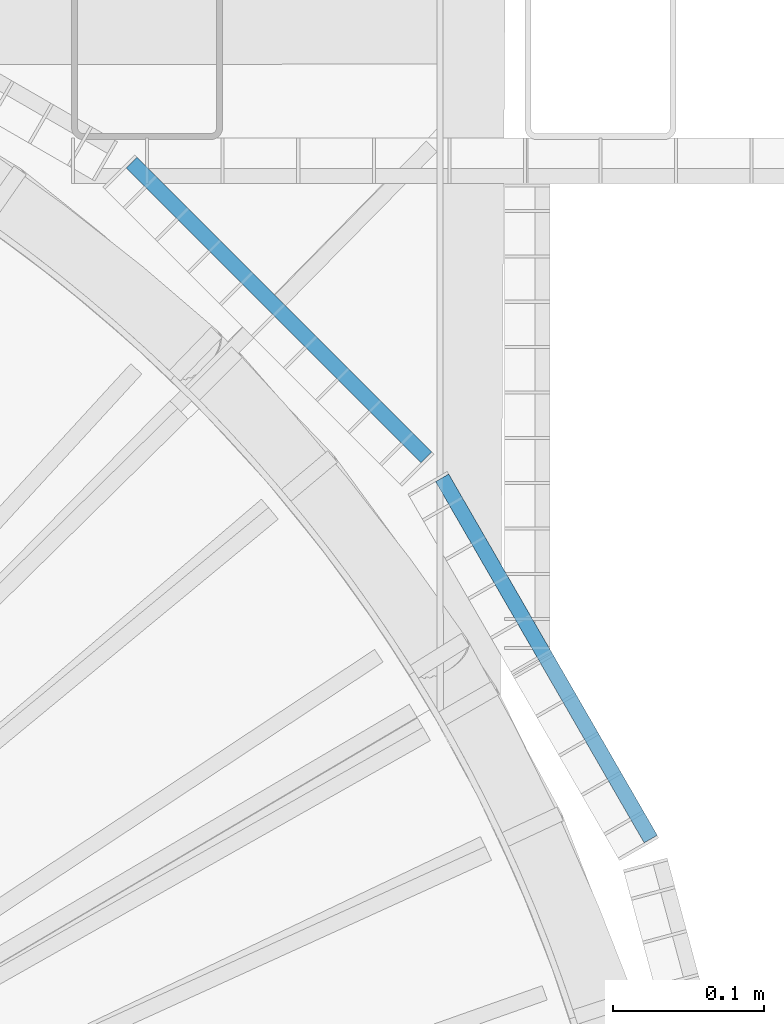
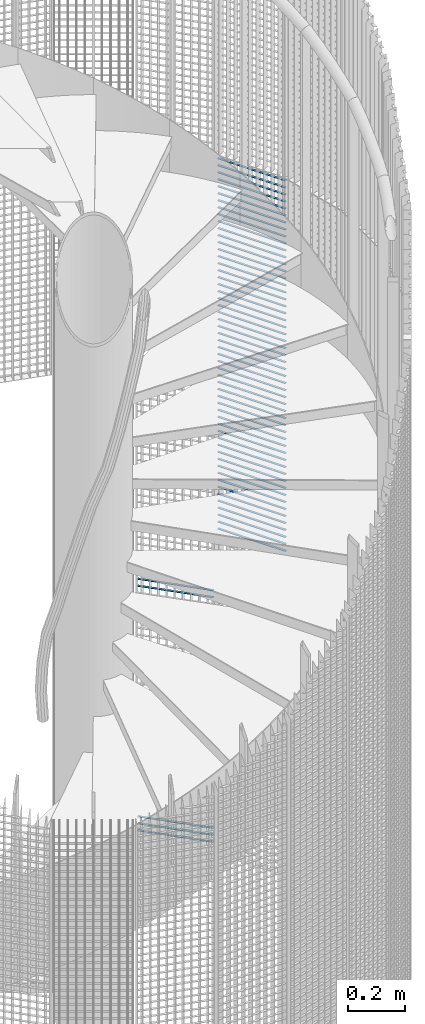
# One storey, part 309 of 1183: 59 beams, 2 elements without a shape of their own.
"""IFC2X3 building model written with IfcOpenShell, lengths in millimetres."""

import ifcopenshell
import ifcopenshell.guid

model = None  # the IFC model being written
_history = None  # IfcOwnerHistory: only IFC2X3 demands one
_inside = {}  # id of a spatial element -> (the spatial element, [elements in it])
_under = {}  # id of a project, library or spatial element -> (it, [spatial elements below it])
_declared = {}  # id of a project -> (the project, [libraries it declares])
_typed = {}  # id of a type object -> (the type object, [elements of that type])
_made_of = {}  # id of a material, layer set ... -> (it, [elements and type objects made of it])


def new_model(schema):
    """Start an empty IFC model of exactly this schema.

    Asked for "IFC4X3", IfcOpenShell would pick the latest addendum, in which some entities
    have other attributes; the version numbers below select the first issue.
    IFC2X3 requires an IfcOwnerHistory on every rooted entity: one is made here for all.
    """
    global model, _history
    if schema == "IFC4X3":
        model = ifcopenshell.file(schema_version=(4, 3, 0, 0))
    else:
        model = ifcopenshell.file(schema=schema)
    _inside.clear()
    _under.clear()
    _declared.clear()
    _typed.clear()
    _made_of.clear()
    _history = None
    if model.schema == "IFC2X3":
        org = make("IfcOrganization", Name="unknown")
        user = make(
            "IfcPersonAndOrganization",
            ThePerson=make("IfcPerson", FamilyName="unknown"),
            TheOrganization=org,
        )
        app = make(
            "IfcApplication",
            ApplicationDeveloper=org,
            Version="unknown",
            ApplicationFullName="unknown",
            ApplicationIdentifier="unknown",
        )
        _history = make(
            "IfcOwnerHistory",
            OwningUser=user,
            OwningApplication=app,
            ChangeAction="ADDED",
            CreationDate=0,
        )
    return model


def make(cls, **values):
    """One entity of the class cls with the attributes given. An attribute that is None is left unset."""
    return model.create_entity(
        cls, **{name: value for name, value in values.items() if value is not None}
    )


def rooted(cls, **values):
    """An entity with a GlobalId (a new one), such as an element, a storey or a relation."""
    return make(cls, GlobalId=ifcopenshell.guid.new(), OwnerHistory=_history, **values)


def si_unit(unit_type, name, prefix=None):
    """IfcSIUnit, for example si_unit("LENGTHUNIT", "METRE", prefix="MILLI")."""
    return make("IfcSIUnit", UnitType=unit_type, Prefix=prefix, Name=name)


def assignment(units):
    """IfcUnitAssignment: the units of a project."""
    return None if units is None else make("IfcUnitAssignment", Units=units)


def point(xyz):
    """IfcCartesianPoint."""
    return None if xyz is None else make("IfcCartesianPoint", Coordinates=xyz)


def direction(xyz):
    """IfcDirection."""
    return None if xyz is None else make("IfcDirection", DirectionRatios=xyz)


def frame(location, z_axis=None, x_axis=None):
    """IfcAxis2Placement3D, a coordinate frame: its origin and axes. An axis left out is left unset."""
    return make(
        "IfcAxis2Placement3D",
        Location=point(location),
        Axis=direction(z_axis),
        RefDirection=direction(x_axis),
    )


def frame_2d(location, x_axis=None):
    """IfcAxis2Placement2D, a coordinate frame in the plane: its origin and x axis."""
    return make(
        "IfcAxis2Placement2D", Location=point(location), RefDirection=direction(x_axis)
    )


def origin_with_axes():
    """The frame at (0, 0, 0) with the z axis (0, 0, 1) and the x axis (1, 0, 0) written out."""
    return frame((0.0, 0.0, 0.0), z_axis=(0.0, 0.0, 1.0), x_axis=(1.0, 0.0, 0.0))


def origin_2d_with_axis():
    """The frame at (0, 0) in the plane with the x axis (1, 0) written out."""
    return frame_2d((0.0, 0.0), x_axis=(1.0, 0.0))


def place(relative_to, where):
    """IfcLocalPlacement: puts the frame where relative to a parent placement (None: the world)."""
    return make(
        "IfcLocalPlacement", PlacementRelTo=relative_to, RelativePlacement=where
    )


def context(
    kind, dimensions, precision=None, world=None, true_north=None, identifier=None
):
    """IfcGeometricRepresentationContext, for example the 3D "Model" context."""
    return make(
        "IfcGeometricRepresentationContext",
        ContextIdentifier=identifier,
        ContextType=kind,
        CoordinateSpaceDimension=dimensions,
        Precision=precision,
        WorldCoordinateSystem=world,
        TrueNorth=true_north,
    )


def subcontext(parent, identifier, kind, view, scale=None):
    """IfcGeometricRepresentationSubContext, for example "Body" below "Model"."""
    return make(
        "IfcGeometricRepresentationSubContext",
        ContextIdentifier=identifier,
        ContextType=kind,
        ParentContext=parent,
        TargetScale=scale,
        TargetView=view,
    )


def project(units=None, contexts=None):
    """IfcProject with its units and contexts."""
    return rooted(
        "IfcProject",
        Name="project",
        RepresentationContexts=contexts,
        UnitsInContext=assignment(units),
    )


def spatial(cls, under=None, at=None, **own):
    """A site, building, storey or space (cls), placed at a placement, below another one or the project."""
    s = rooted(cls, ObjectPlacement=at, **own)
    if under is not None:
        _under.setdefault(under.id(), (under, []))[1].append(s)
    return s


def profile(cls, at=None, kind="AREA", **sizes):
    """A parametric profile (cls). Its sizes go by their IFC names, for example OverallWidth=200.0."""
    return make(cls, ProfileType=kind, Position=at, **sizes)


def rectangle(**sizes):
    """IfcRectangleProfileDef."""
    return profile("IfcRectangleProfileDef", **sizes)


def extrude(swept, where, along, depth):
    """IfcExtrudedAreaSolid: the profile swept, set in the frame where, extruded along a direction by depth."""
    return make(
        "IfcExtrudedAreaSolid",
        SweptArea=swept,
        Position=where,
        ExtrudedDirection=direction(along),
        Depth=depth,
    )


def shape(context_of_items, identifier, shape_type, items):
    """IfcShapeRepresentation: the items that make up one representation, for example the "Body"."""
    return make(
        "IfcShapeRepresentation",
        ContextOfItems=context_of_items,
        RepresentationIdentifier=identifier,
        RepresentationType=shape_type,
        Items=items,
    )


def material(Name=None, Category=None):
    """IfcMaterial."""
    return make("IfcMaterial", Name=Name, Category=Category)


def made_of(thing, what):
    """Note that an element or type object is made of a material, layer set ...; save() writes the relation."""
    if what is not None:
        _made_of.setdefault(what.id(), (what, []))[1].append(thing)
    return thing


def type_object(cls, material=None, **own):
    """A type object (cls), such as IfcWallType, which elements share."""
    return made_of(rooted(cls, **own), material)


def element(
    cls,
    number,
    at=None,
    inside=None,
    cuts=None,
    type_object=None,
    material=None,
    context=None,
    identifier="Body",
    shape_type=None,
    held_by="IfcProductDefinitionShape",
    body=None,
    shapes=None,
    **own,
):
    """One element of the class cls, such as IfcWall. Its Tag is "e" and its number.

    at: its placement. inside: the storey or other place that contains it. cuts: it is an
    opening in that element (IfcRelVoidsElement). A single representation is given by context,
    identifier, shape_type and body (its items); several are given by shapes. held_by: the class
    of the entity that holds the representations. save() writes the other relations.
    """
    e = rooted(cls, Tag="e%d" % number, ObjectPlacement=at, **own)
    if body is not None:
        shapes = [shape(context, identifier, shape_type, body)]
    if shapes is not None:
        e.Representation = make(held_by, Representations=shapes)
    if inside is not None:
        _inside.setdefault(inside.id(), (inside, []))[1].append(e)
    if cuts is not None:
        rooted(
            "IfcRelVoidsElement", RelatingBuildingElement=cuts, RelatedOpeningElement=e
        )
    if type_object is not None:
        _typed.setdefault(type_object.id(), (type_object, []))[1].append(e)
    return made_of(e, material)


def aggregate(whole, parts):
    """IfcRelAggregates: a whole, such as a stair, and the parts it consists of."""
    return rooted("IfcRelAggregates", RelatingObject=whole, RelatedObjects=parts)


def save(model, path):
    """Write the relations noted so far, then the file.

    IfcRelAggregates (storeys below a building ...), IfcRelContainedInSpatialStructure (elements
    in a storey), IfcRelDefinesByType, IfcRelAssociatesMaterial and IfcRelDeclares: one each for
    every whole, place, type object, material and project.
    """
    for whole, parts in _under.values():
        aggregate(whole, parts)
    for where, things in _inside.values():
        rooted(
            "IfcRelContainedInSpatialStructure",
            RelatedElements=things,
            RelatingStructure=where,
        )
    for kind, things in _typed.values():
        rooted("IfcRelDefinesByType", RelatedObjects=things, RelatingType=kind)
    for what, things in _made_of.values():
        rooted("IfcRelAssociatesMaterial", RelatedObjects=things, RelatingMaterial=what)
    for by, libraries in _declared.values():
        rooted("IfcRelDeclares", RelatingContext=by, RelatedDefinitions=libraries)
    model.write(path)


model = new_model("IFC2X3")

# Units and contexts
model_context = context("Model", 3, precision=1e-05, world=origin_with_axes())
body_context = subcontext(model_context, "Body", "Model", "MODEL_VIEW")
ifc_project = project(units=[si_unit("LENGTHUNIT", "METRE", prefix="MILLI"), si_unit("AREAUNIT", "SQUARE_METRE"), si_unit("VOLUMEUNIT", "CUBIC_METRE"), si_unit("MASSUNIT", "GRAM", prefix="KILO"), si_unit("TIMEUNIT", "SECOND"), si_unit("PLANEANGLEUNIT", "RADIAN"), si_unit("SOLIDANGLEUNIT", "STERADIAN"), si_unit("THERMODYNAMICTEMPERATUREUNIT", "DEGREE_CELSIUS"), si_unit("LUMINOUSINTENSITYUNIT", "LUMEN")], contexts=[model_context])

# Site, building, storey
site_placement = place(None, origin_with_axes())
site = spatial("IfcSite", under=ifc_project, at=site_placement, Name="Undefined", CompositionType="ELEMENT")
building_placement = place(site_placement, origin_with_axes())
building = spatial("IfcBuilding", under=site, at=building_placement, Name="Undefined", CompositionType="ELEMENT")
storey_placement = place(building_placement, origin_with_axes())
storey = spatial("IfcBuildingStorey", under=building, at=storey_placement, Name="Undefined", CompositionType="ELEMENT", Elevation=0.0)

# Assembly, beams
assembly_1_placement = place(storey_placement, origin_with_axes())
assembly_1 = element("IfcElementAssembly", 1, at=assembly_1_placement, inside=storey, Name="BORDURE", AssemblyPlace="NOTDEFINED", PredefinedType="NOTDEFINED")
ifc_material = material(Name="STEEL/S235JR")
beam_type = type_object("IfcBeamType", Name="PL2*10", PredefinedType="NOTDEFINED")
beam_1_placement = place(assembly_1_placement, frame((884.927168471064, 689.771348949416, 1080.0), z_axis=(0.707106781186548, 0.707106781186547, 0.0), x_axis=(-0.707106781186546, 0.707106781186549, 0.0)))
beam_1 = element("IfcBeam", 2, at=beam_1_placement, type_object=beam_type, material=ifc_material, Name="ENTRETOISE", context=body_context, shape_type="SweptSolid", body=[
    extrude(rectangle(XDim=2.0, YDim=10.0, at=origin_2d_with_axis()), frame((275.999999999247, 9.09494701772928e-13, 1.53210777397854e-14), z_axis=(-1.0, 0.0, 0.0), x_axis=(0.0, -1.0, 0.0)), (0.0, 0.0, 1.0), 276.0),
])
beam_2_placement = place(assembly_1_placement, frame((884.927168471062, 689.771348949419, 89.9999999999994), z_axis=(0.707106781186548, 0.707106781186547, 0.0), x_axis=(-0.707106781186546, 0.707106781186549, 0.0)))
beam_2 = element("IfcBeam", 3, at=beam_2_placement, type_object=beam_type, material=ifc_material, Name="ENTRETOISE", context=body_context, shape_type="SweptSolid", body=[
    extrude(rectangle(XDim=2.0, YDim=10.0, at=origin_2d_with_axis()), frame((275.999999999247, 9.09494701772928e-13, 1.53210777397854e-14), z_axis=(-1.0, 0.0, 0.0), x_axis=(0.0, -1.0, 0.0)), (0.0, 0.0, 1.0), 276.0),
])
beam_3_placement = place(assembly_1_placement, frame((884.927168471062, 689.771348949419, 59.9999999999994), z_axis=(0.707106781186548, 0.707106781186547, 0.0), x_axis=(-0.707106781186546, 0.707106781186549, 0.0)))
beam_3 = element("IfcBeam", 4, at=beam_3_placement, type_object=beam_type, material=ifc_material, Name="ENTRETOISE", context=body_context, shape_type="SweptSolid", body=[
    extrude(rectangle(XDim=2.0, YDim=10.0, at=origin_2d_with_axis()), frame((275.999999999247, 9.09494701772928e-13, 1.53210777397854e-14), z_axis=(-1.0, 0.0, 0.0), x_axis=(0.0, -1.0, 0.0)), (0.0, 0.0, 1.0), 276.0),
])
beam_4_placement = place(assembly_1_placement, frame((884.927168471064, 689.771348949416, 1110.0), z_axis=(0.707106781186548, 0.707106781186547, 0.0), x_axis=(-0.707106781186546, 0.707106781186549, 0.0)))
beam_4 = element("IfcBeam", 5, at=beam_4_placement, type_object=beam_type, material=ifc_material, Name="ENTRETOISE", context=body_context, shape_type="SweptSolid", body=[
    extrude(rectangle(XDim=2.0, YDim=10.0, at=origin_2d_with_axis()), frame((275.999999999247, 9.09494701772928e-13, 1.53210777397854e-14), z_axis=(-1.0, 0.0, 0.0), x_axis=(0.0, -1.0, 0.0)), (0.0, 0.0, 1.0), 276.0),
])
beam_5_placement = place(assembly_1_placement, frame((884.92716847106, 689.771348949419, 29.9999999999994), z_axis=(0.707106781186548, 0.707106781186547, 0.0), x_axis=(-0.707106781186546, 0.707106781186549, 0.0)))
beam_5 = element("IfcBeam", 6, at=beam_5_placement, type_object=beam_type, material=ifc_material, Name="ENTRETOISE", context=body_context, shape_type="SweptSolid", body=[
    extrude(rectangle(XDim=2.0, YDim=10.0, at=origin_2d_with_axis()), frame((275.999999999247, 9.09494701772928e-13, 1.53210777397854e-14), z_axis=(-1.0, 0.0, 0.0), x_axis=(0.0, -1.0, 0.0)), (0.0, 0.0, 1.0), 276.0),
])
aggregate(assembly_1, [beam_1, beam_2, beam_3, beam_4, beam_5])

assembly_2_placement = place(storey_placement, origin_with_axes())
assembly_2 = element("IfcElementAssembly", 7, at=assembly_2_placement, inside=storey, Name="BORDURE", AssemblyPlace="NOTDEFINED", PredefinedType="NOTDEFINED")
beam_6_placement = place(assembly_2_placement, frame((1033.29996828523, 437.231955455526, 2970.0), z_axis=(0.866025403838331, 0.499999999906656, 0.0), x_axis=(-0.49999999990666, 0.866025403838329, 0.0)))
beam_6 = element("IfcBeam", 8, at=beam_6_placement, type_object=beam_type, material=ifc_material, Name="ENTRETOISE", context=body_context, shape_type="SweptSolid", body=[
    extrude(rectangle(XDim=2.0, YDim=10.0, at=origin_2d_with_axis()), frame((275.999999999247, 9.09494701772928e-13, 1.53210777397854e-14), z_axis=(-1.0, 0.0, 0.0), x_axis=(0.0, -1.0, 0.0)), (0.0, 0.0, 1.0), 276.0),
])
beam_7_placement = place(assembly_2_placement, frame((1033.29996828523, 437.231955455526, 2940.0), z_axis=(0.866025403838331, 0.499999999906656, 0.0), x_axis=(-0.49999999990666, 0.866025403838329, 0.0)))
beam_7 = element("IfcBeam", 9, at=beam_7_placement, type_object=beam_type, material=ifc_material, Name="ENTRETOISE", context=body_context, shape_type="SweptSolid", body=[
    extrude(rectangle(XDim=2.0, YDim=10.0, at=origin_2d_with_axis()), frame((275.999999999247, 9.09494701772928e-13, 1.53210777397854e-14), z_axis=(-1.0, 0.0, 0.0), x_axis=(0.0, -1.0, 0.0)), (0.0, 0.0, 1.0), 276.0),
])
beam_8_placement = place(assembly_2_placement, frame((1033.29996828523, 437.231955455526, 2910.0), z_axis=(0.866025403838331, 0.499999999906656, 0.0), x_axis=(-0.49999999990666, 0.866025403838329, 0.0)))
beam_8 = element("IfcBeam", 10, at=beam_8_placement, type_object=beam_type, material=ifc_material, Name="ENTRETOISE", context=body_context, shape_type="SweptSolid", body=[
    extrude(rectangle(XDim=2.0, YDim=10.0, at=origin_2d_with_axis()), frame((275.999999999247, 9.09494701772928e-13, 1.53210777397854e-14), z_axis=(-1.0, 0.0, 0.0), x_axis=(0.0, -1.0, 0.0)), (0.0, 0.0, 1.0), 276.0),
])
beam_9_placement = place(assembly_2_placement, frame((1033.29996828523, 437.231955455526, 2880.0), z_axis=(0.866025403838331, 0.499999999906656, 0.0), x_axis=(-0.49999999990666, 0.866025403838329, 0.0)))
beam_9 = element("IfcBeam", 11, at=beam_9_placement, type_object=beam_type, material=ifc_material, Name="ENTRETOISE", context=body_context, shape_type="SweptSolid", body=[
    extrude(rectangle(XDim=2.0, YDim=10.0, at=origin_2d_with_axis()), frame((275.999999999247, 9.09494701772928e-13, 1.53210777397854e-14), z_axis=(-1.0, 0.0, 0.0), x_axis=(0.0, -1.0, 0.0)), (0.0, 0.0, 1.0), 276.0),
])
beam_10_placement = place(assembly_2_placement, frame((1033.29996828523, 437.231955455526, 2850.0), z_axis=(0.866025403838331, 0.499999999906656, 0.0), x_axis=(-0.49999999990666, 0.866025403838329, 0.0)))
beam_10 = element("IfcBeam", 12, at=beam_10_placement, type_object=beam_type, material=ifc_material, Name="ENTRETOISE", context=body_context, shape_type="SweptSolid", body=[
    extrude(rectangle(XDim=2.0, YDim=10.0, at=origin_2d_with_axis()), frame((275.999999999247, 9.09494701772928e-13, 1.53210777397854e-14), z_axis=(-1.0, 0.0, 0.0), x_axis=(0.0, -1.0, 0.0)), (0.0, 0.0, 1.0), 276.0),
])
beam_11_placement = place(assembly_2_placement, frame((1033.29996828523, 437.231955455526, 2820.0), z_axis=(0.866025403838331, 0.499999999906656, 0.0), x_axis=(-0.49999999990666, 0.866025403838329, 0.0)))
beam_11 = element("IfcBeam", 13, at=beam_11_placement, type_object=beam_type, material=ifc_material, Name="ENTRETOISE", context=body_context, shape_type="SweptSolid", body=[
    extrude(rectangle(XDim=2.0, YDim=10.0, at=origin_2d_with_axis()), frame((275.999999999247, 9.09494701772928e-13, 1.53210777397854e-14), z_axis=(-1.0, 0.0, 0.0), x_axis=(0.0, -1.0, 0.0)), (0.0, 0.0, 1.0), 276.0),
])
beam_12_placement = place(assembly_2_placement, frame((1033.29996828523, 437.231955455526, 2790.0), z_axis=(0.866025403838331, 0.499999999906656, 0.0), x_axis=(-0.49999999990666, 0.866025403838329, 0.0)))
beam_12 = element("IfcBeam", 14, at=beam_12_placement, type_object=beam_type, material=ifc_material, Name="ENTRETOISE", context=body_context, shape_type="SweptSolid", body=[
    extrude(rectangle(XDim=2.0, YDim=10.0, at=origin_2d_with_axis()), frame((275.999999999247, 9.09494701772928e-13, 1.53210777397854e-14), z_axis=(-1.0, 0.0, 0.0), x_axis=(0.0, -1.0, 0.0)), (0.0, 0.0, 1.0), 276.0),
])
beam_13_placement = place(assembly_2_placement, frame((1033.29996828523, 437.231955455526, 2760.0), z_axis=(0.866025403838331, 0.499999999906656, 0.0), x_axis=(-0.49999999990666, 0.866025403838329, 0.0)))
beam_13 = element("IfcBeam", 15, at=beam_13_placement, type_object=beam_type, material=ifc_material, Name="ENTRETOISE", context=body_context, shape_type="SweptSolid", body=[
    extrude(rectangle(XDim=2.0, YDim=10.0, at=origin_2d_with_axis()), frame((275.999999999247, 9.09494701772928e-13, 1.53210777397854e-14), z_axis=(-1.0, 0.0, 0.0), x_axis=(0.0, -1.0, 0.0)), (0.0, 0.0, 1.0), 276.0),
])
beam_14_placement = place(assembly_2_placement, frame((1033.29996828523, 437.231955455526, 2730.0), z_axis=(0.866025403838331, 0.499999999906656, 0.0), x_axis=(-0.49999999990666, 0.866025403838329, 0.0)))
beam_14 = element("IfcBeam", 16, at=beam_14_placement, type_object=beam_type, material=ifc_material, Name="ENTRETOISE", context=body_context, shape_type="SweptSolid", body=[
    extrude(rectangle(XDim=2.0, YDim=10.0, at=origin_2d_with_axis()), frame((275.999999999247, 9.09494701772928e-13, 1.53210777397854e-14), z_axis=(-1.0, 0.0, 0.0), x_axis=(0.0, -1.0, 0.0)), (0.0, 0.0, 1.0), 276.0),
])
beam_15_placement = place(assembly_2_placement, frame((1033.29996828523, 437.231955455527, 2700.0), z_axis=(0.866025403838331, 0.499999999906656, 0.0), x_axis=(-0.49999999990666, 0.866025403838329, 0.0)))
beam_15 = element("IfcBeam", 17, at=beam_15_placement, type_object=beam_type, material=ifc_material, Name="ENTRETOISE", context=body_context, shape_type="SweptSolid", body=[
    extrude(rectangle(XDim=2.0, YDim=10.0, at=origin_2d_with_axis()), frame((275.999999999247, 9.09494701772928e-13, 1.53210777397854e-14), z_axis=(-1.0, 0.0, 0.0), x_axis=(0.0, -1.0, 0.0)), (0.0, 0.0, 1.0), 276.0),
])
beam_16_placement = place(assembly_2_placement, frame((1033.29996828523, 437.231955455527, 2670.0), z_axis=(0.866025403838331, 0.499999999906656, 0.0), x_axis=(-0.49999999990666, 0.866025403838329, 0.0)))
beam_16 = element("IfcBeam", 18, at=beam_16_placement, type_object=beam_type, material=ifc_material, Name="ENTRETOISE", context=body_context, shape_type="SweptSolid", body=[
    extrude(rectangle(XDim=2.0, YDim=10.0, at=origin_2d_with_axis()), frame((275.999999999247, 9.09494701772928e-13, 1.53210777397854e-14), z_axis=(-1.0, 0.0, 0.0), x_axis=(0.0, -1.0, 0.0)), (0.0, 0.0, 1.0), 276.0),
])
beam_17_placement = place(assembly_2_placement, frame((1033.29996828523, 437.231955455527, 2640.0), z_axis=(0.866025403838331, 0.499999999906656, 0.0), x_axis=(-0.49999999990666, 0.866025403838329, 0.0)))
beam_17 = element("IfcBeam", 19, at=beam_17_placement, type_object=beam_type, material=ifc_material, Name="ENTRETOISE", context=body_context, shape_type="SweptSolid", body=[
    extrude(rectangle(XDim=2.0, YDim=10.0, at=origin_2d_with_axis()), frame((275.999999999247, 9.09494701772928e-13, 1.53210777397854e-14), z_axis=(-1.0, 0.0, 0.0), x_axis=(0.0, -1.0, 0.0)), (0.0, 0.0, 1.0), 276.0),
])
beam_18_placement = place(assembly_2_placement, frame((1033.29996828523, 437.231955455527, 2610.0), z_axis=(0.866025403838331, 0.499999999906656, 0.0), x_axis=(-0.49999999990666, 0.866025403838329, 0.0)))
beam_18 = element("IfcBeam", 20, at=beam_18_placement, type_object=beam_type, material=ifc_material, Name="ENTRETOISE", context=body_context, shape_type="SweptSolid", body=[
    extrude(rectangle(XDim=2.0, YDim=10.0, at=origin_2d_with_axis()), frame((275.999999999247, 9.09494701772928e-13, 1.53210777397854e-14), z_axis=(-1.0, 0.0, 0.0), x_axis=(0.0, -1.0, 0.0)), (0.0, 0.0, 1.0), 276.0),
])
beam_19_placement = place(assembly_2_placement, frame((1033.29996828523, 437.231955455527, 2580.0), z_axis=(0.866025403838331, 0.499999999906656, 0.0), x_axis=(-0.49999999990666, 0.866025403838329, 0.0)))
beam_19 = element("IfcBeam", 21, at=beam_19_placement, type_object=beam_type, material=ifc_material, Name="ENTRETOISE", context=body_context, shape_type="SweptSolid", body=[
    extrude(rectangle(XDim=2.0, YDim=10.0, at=origin_2d_with_axis()), frame((275.999999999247, 9.09494701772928e-13, 1.53210777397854e-14), z_axis=(-1.0, 0.0, 0.0), x_axis=(0.0, -1.0, 0.0)), (0.0, 0.0, 1.0), 276.0),
])
beam_20_placement = place(assembly_2_placement, frame((1033.29996828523, 437.231955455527, 2550.0), z_axis=(0.866025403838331, 0.499999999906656, 0.0), x_axis=(-0.49999999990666, 0.866025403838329, 0.0)))
beam_20 = element("IfcBeam", 22, at=beam_20_placement, type_object=beam_type, material=ifc_material, Name="ENTRETOISE", context=body_context, shape_type="SweptSolid", body=[
    extrude(rectangle(XDim=2.0, YDim=10.0, at=origin_2d_with_axis()), frame((275.999999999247, 9.09494701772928e-13, 1.53210777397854e-14), z_axis=(-1.0, 0.0, 0.0), x_axis=(0.0, -1.0, 0.0)), (0.0, 0.0, 1.0), 276.0),
])
beam_21_placement = place(assembly_2_placement, frame((1033.29996828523, 437.231955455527, 2520.0), z_axis=(0.866025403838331, 0.499999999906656, 0.0), x_axis=(-0.49999999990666, 0.866025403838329, 0.0)))
beam_21 = element("IfcBeam", 23, at=beam_21_placement, type_object=beam_type, material=ifc_material, Name="ENTRETOISE", context=body_context, shape_type="SweptSolid", body=[
    extrude(rectangle(XDim=2.0, YDim=10.0, at=origin_2d_with_axis()), frame((275.999999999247, 9.09494701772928e-13, 1.53210777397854e-14), z_axis=(-1.0, 0.0, 0.0), x_axis=(0.0, -1.0, 0.0)), (0.0, 0.0, 1.0), 276.0),
])
beam_22_placement = place(assembly_2_placement, frame((1033.29996828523, 437.231955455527, 2490.0), z_axis=(0.866025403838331, 0.499999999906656, 0.0), x_axis=(-0.49999999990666, 0.866025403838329, 0.0)))
beam_22 = element("IfcBeam", 24, at=beam_22_placement, type_object=beam_type, material=ifc_material, Name="ENTRETOISE", context=body_context, shape_type="SweptSolid", body=[
    extrude(rectangle(XDim=2.0, YDim=10.0, at=origin_2d_with_axis()), frame((275.999999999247, 9.09494701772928e-13, 1.53210777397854e-14), z_axis=(-1.0, 0.0, 0.0), x_axis=(0.0, -1.0, 0.0)), (0.0, 0.0, 1.0), 276.0),
])
beam_23_placement = place(assembly_2_placement, frame((1033.29996828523, 437.231955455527, 2460.0), z_axis=(0.866025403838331, 0.499999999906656, 0.0), x_axis=(-0.49999999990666, 0.866025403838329, 0.0)))
beam_23 = element("IfcBeam", 25, at=beam_23_placement, type_object=beam_type, material=ifc_material, Name="ENTRETOISE", context=body_context, shape_type="SweptSolid", body=[
    extrude(rectangle(XDim=2.0, YDim=10.0, at=origin_2d_with_axis()), frame((275.999999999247, 9.09494701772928e-13, 1.53210777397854e-14), z_axis=(-1.0, 0.0, 0.0), x_axis=(0.0, -1.0, 0.0)), (0.0, 0.0, 1.0), 276.0),
])
beam_24_placement = place(assembly_2_placement, frame((1033.29996828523, 437.231955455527, 2430.0), z_axis=(0.866025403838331, 0.499999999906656, 0.0), x_axis=(-0.49999999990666, 0.866025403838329, 0.0)))
beam_24 = element("IfcBeam", 26, at=beam_24_placement, type_object=beam_type, material=ifc_material, Name="ENTRETOISE", context=body_context, shape_type="SweptSolid", body=[
    extrude(rectangle(XDim=2.0, YDim=10.0, at=origin_2d_with_axis()), frame((275.999999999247, 9.09494701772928e-13, 1.53210777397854e-14), z_axis=(-1.0, 0.0, 0.0), x_axis=(0.0, -1.0, 0.0)), (0.0, 0.0, 1.0), 276.0),
])
beam_25_placement = place(assembly_2_placement, frame((1033.29996828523, 437.231955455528, 2400.0), z_axis=(0.866025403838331, 0.499999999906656, 0.0), x_axis=(-0.49999999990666, 0.866025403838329, 0.0)))
beam_25 = element("IfcBeam", 27, at=beam_25_placement, type_object=beam_type, material=ifc_material, Name="ENTRETOISE", context=body_context, shape_type="SweptSolid", body=[
    extrude(rectangle(XDim=2.0, YDim=10.0, at=origin_2d_with_axis()), frame((275.999999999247, 9.09494701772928e-13, 1.53210777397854e-14), z_axis=(-1.0, 0.0, 0.0), x_axis=(0.0, -1.0, 0.0)), (0.0, 0.0, 1.0), 276.0),
])
beam_26_placement = place(assembly_2_placement, frame((1033.29996828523, 437.231955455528, 2370.0), z_axis=(0.866025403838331, 0.499999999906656, 0.0), x_axis=(-0.49999999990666, 0.866025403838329, 0.0)))
beam_26 = element("IfcBeam", 28, at=beam_26_placement, type_object=beam_type, material=ifc_material, Name="ENTRETOISE", context=body_context, shape_type="SweptSolid", body=[
    extrude(rectangle(XDim=2.0, YDim=10.0, at=origin_2d_with_axis()), frame((275.999999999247, 9.09494701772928e-13, 1.53210777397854e-14), z_axis=(-1.0, 0.0, 0.0), x_axis=(0.0, -1.0, 0.0)), (0.0, 0.0, 1.0), 276.0),
])
beam_27_placement = place(assembly_2_placement, frame((1033.29996828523, 437.231955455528, 2340.0), z_axis=(0.866025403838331, 0.499999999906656, 0.0), x_axis=(-0.49999999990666, 0.866025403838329, 0.0)))
beam_27 = element("IfcBeam", 29, at=beam_27_placement, type_object=beam_type, material=ifc_material, Name="ENTRETOISE", context=body_context, shape_type="SweptSolid", body=[
    extrude(rectangle(XDim=2.0, YDim=10.0, at=origin_2d_with_axis()), frame((275.999999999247, 9.09494701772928e-13, 1.53210777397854e-14), z_axis=(-1.0, 0.0, 0.0), x_axis=(0.0, -1.0, 0.0)), (0.0, 0.0, 1.0), 276.0),
])
beam_28_placement = place(assembly_2_placement, frame((1033.29996828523, 437.231955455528, 2310.0), z_axis=(0.866025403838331, 0.499999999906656, 0.0), x_axis=(-0.49999999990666, 0.866025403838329, 0.0)))
beam_28 = element("IfcBeam", 30, at=beam_28_placement, type_object=beam_type, material=ifc_material, Name="ENTRETOISE", context=body_context, shape_type="SweptSolid", body=[
    extrude(rectangle(XDim=2.0, YDim=10.0, at=origin_2d_with_axis()), frame((275.999999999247, 9.09494701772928e-13, 1.53210777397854e-14), z_axis=(-1.0, 0.0, 0.0), x_axis=(0.0, -1.0, 0.0)), (0.0, 0.0, 1.0), 276.0),
])
beam_29_placement = place(assembly_2_placement, frame((1033.29996828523, 437.231955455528, 2280.0), z_axis=(0.866025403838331, 0.499999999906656, 0.0), x_axis=(-0.49999999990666, 0.866025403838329, 0.0)))
beam_29 = element("IfcBeam", 31, at=beam_29_placement, type_object=beam_type, material=ifc_material, Name="ENTRETOISE", context=body_context, shape_type="SweptSolid", body=[
    extrude(rectangle(XDim=2.0, YDim=10.0, at=origin_2d_with_axis()), frame((275.999999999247, 9.09494701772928e-13, 1.53210777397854e-14), z_axis=(-1.0, 0.0, 0.0), x_axis=(0.0, -1.0, 0.0)), (0.0, 0.0, 1.0), 276.0),
])
beam_30_placement = place(assembly_2_placement, frame((1033.29996828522, 437.231955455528, 2250.0), z_axis=(0.866025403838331, 0.499999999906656, 0.0), x_axis=(-0.49999999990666, 0.866025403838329, 0.0)))
beam_30 = element("IfcBeam", 32, at=beam_30_placement, type_object=beam_type, material=ifc_material, Name="ENTRETOISE", context=body_context, shape_type="SweptSolid", body=[
    extrude(rectangle(XDim=2.0, YDim=10.0, at=origin_2d_with_axis()), frame((275.999999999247, 9.09494701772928e-13, 1.53210777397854e-14), z_axis=(-1.0, 0.0, 0.0), x_axis=(0.0, -1.0, 0.0)), (0.0, 0.0, 1.0), 276.0),
])
beam_31_placement = place(assembly_2_placement, frame((1033.29996828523, 437.231955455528, 2220.0), z_axis=(0.866025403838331, 0.499999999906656, 0.0), x_axis=(-0.49999999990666, 0.866025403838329, 0.0)))
beam_31 = element("IfcBeam", 33, at=beam_31_placement, type_object=beam_type, material=ifc_material, Name="ENTRETOISE", context=body_context, shape_type="SweptSolid", body=[
    extrude(rectangle(XDim=2.0, YDim=10.0, at=origin_2d_with_axis()), frame((275.999999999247, 9.09494701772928e-13, 1.53210777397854e-14), z_axis=(-1.0, 0.0, 0.0), x_axis=(0.0, -1.0, 0.0)), (0.0, 0.0, 1.0), 276.0),
])
beam_32_placement = place(assembly_2_placement, frame((1033.29996828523, 437.231955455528, 2190.0), z_axis=(0.866025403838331, 0.499999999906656, 0.0), x_axis=(-0.49999999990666, 0.866025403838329, 0.0)))
beam_32 = element("IfcBeam", 34, at=beam_32_placement, type_object=beam_type, material=ifc_material, Name="ENTRETOISE", context=body_context, shape_type="SweptSolid", body=[
    extrude(rectangle(XDim=2.0, YDim=10.0, at=origin_2d_with_axis()), frame((275.999999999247, 9.09494701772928e-13, 1.53210777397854e-14), z_axis=(-1.0, 0.0, 0.0), x_axis=(0.0, -1.0, 0.0)), (0.0, 0.0, 1.0), 276.0),
])
beam_33_placement = place(assembly_2_placement, frame((1033.29996828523, 437.231955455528, 2160.0), z_axis=(0.866025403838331, 0.499999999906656, 0.0), x_axis=(-0.49999999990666, 0.866025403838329, 0.0)))
beam_33 = element("IfcBeam", 35, at=beam_33_placement, type_object=beam_type, material=ifc_material, Name="ENTRETOISE", context=body_context, shape_type="SweptSolid", body=[
    extrude(rectangle(XDim=2.0, YDim=10.0, at=origin_2d_with_axis()), frame((275.999999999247, 9.09494701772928e-13, 1.53210777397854e-14), z_axis=(-1.0, 0.0, 0.0), x_axis=(0.0, -1.0, 0.0)), (0.0, 0.0, 1.0), 276.0),
])
beam_34_placement = place(assembly_2_placement, frame((1033.29996828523, 437.231955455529, 2130.0), z_axis=(0.866025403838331, 0.499999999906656, 0.0), x_axis=(-0.49999999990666, 0.866025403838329, 0.0)))
beam_34 = element("IfcBeam", 36, at=beam_34_placement, type_object=beam_type, material=ifc_material, Name="ENTRETOISE", context=body_context, shape_type="SweptSolid", body=[
    extrude(rectangle(XDim=2.0, YDim=10.0, at=origin_2d_with_axis()), frame((275.999999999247, 9.09494701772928e-13, 1.53210777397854e-14), z_axis=(-1.0, 0.0, 0.0), x_axis=(0.0, -1.0, 0.0)), (0.0, 0.0, 1.0), 276.0),
])
beam_35_placement = place(assembly_2_placement, frame((1033.29996828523, 437.231955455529, 2100.0), z_axis=(0.866025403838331, 0.499999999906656, 0.0), x_axis=(-0.49999999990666, 0.866025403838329, 0.0)))
beam_35 = element("IfcBeam", 37, at=beam_35_placement, type_object=beam_type, material=ifc_material, Name="ENTRETOISE", context=body_context, shape_type="SweptSolid", body=[
    extrude(rectangle(XDim=2.0, YDim=10.0, at=origin_2d_with_axis()), frame((275.999999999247, 9.09494701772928e-13, 1.53210777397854e-14), z_axis=(-1.0, 0.0, 0.0), x_axis=(0.0, -1.0, 0.0)), (0.0, 0.0, 1.0), 276.0),
])
beam_36_placement = place(assembly_2_placement, frame((1033.29996828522, 437.231955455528, 2070.0), z_axis=(0.866025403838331, 0.499999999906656, 0.0), x_axis=(-0.49999999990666, 0.866025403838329, 0.0)))
beam_36 = element("IfcBeam", 38, at=beam_36_placement, type_object=beam_type, material=ifc_material, Name="ENTRETOISE", context=body_context, shape_type="SweptSolid", body=[
    extrude(rectangle(XDim=2.0, YDim=10.0, at=origin_2d_with_axis()), frame((275.999999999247, 9.09494701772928e-13, 1.53210777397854e-14), z_axis=(-1.0, 0.0, 0.0), x_axis=(0.0, -1.0, 0.0)), (0.0, 0.0, 1.0), 276.0),
])
beam_37_placement = place(assembly_2_placement, frame((1033.29996828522, 437.231955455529, 2040.0), z_axis=(0.866025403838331, 0.499999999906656, 0.0), x_axis=(-0.49999999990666, 0.866025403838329, 0.0)))
beam_37 = element("IfcBeam", 39, at=beam_37_placement, type_object=beam_type, material=ifc_material, Name="ENTRETOISE", context=body_context, shape_type="SweptSolid", body=[
    extrude(rectangle(XDim=2.0, YDim=10.0, at=origin_2d_with_axis()), frame((275.999999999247, 9.09494701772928e-13, 1.53210777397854e-14), z_axis=(-1.0, 0.0, 0.0), x_axis=(0.0, -1.0, 0.0)), (0.0, 0.0, 1.0), 276.0),
])
beam_38_placement = place(assembly_2_placement, frame((1033.29996828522, 437.231955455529, 2010.0), z_axis=(0.866025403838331, 0.499999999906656, 0.0), x_axis=(-0.49999999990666, 0.866025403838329, 0.0)))
beam_38 = element("IfcBeam", 40, at=beam_38_placement, type_object=beam_type, material=ifc_material, Name="ENTRETOISE", context=body_context, shape_type="SweptSolid", body=[
    extrude(rectangle(XDim=2.0, YDim=10.0, at=origin_2d_with_axis()), frame((275.999999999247, 9.09494701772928e-13, 1.53210777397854e-14), z_axis=(-1.0, 0.0, 0.0), x_axis=(0.0, -1.0, 0.0)), (0.0, 0.0, 1.0), 276.0),
])
beam_39_placement = place(assembly_2_placement, frame((1033.29996828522, 437.231955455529, 1980.0), z_axis=(0.866025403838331, 0.499999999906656, 0.0), x_axis=(-0.49999999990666, 0.866025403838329, 0.0)))
beam_39 = element("IfcBeam", 41, at=beam_39_placement, type_object=beam_type, material=ifc_material, Name="ENTRETOISE", context=body_context, shape_type="SweptSolid", body=[
    extrude(rectangle(XDim=2.0, YDim=10.0, at=origin_2d_with_axis()), frame((275.999999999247, 9.09494701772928e-13, 1.53210777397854e-14), z_axis=(-1.0, 0.0, 0.0), x_axis=(0.0, -1.0, 0.0)), (0.0, 0.0, 1.0), 276.0),
])
beam_40_placement = place(assembly_2_placement, frame((1033.29996828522, 437.231955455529, 1950.0), z_axis=(0.866025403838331, 0.499999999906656, 0.0), x_axis=(-0.49999999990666, 0.866025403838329, 0.0)))
beam_40 = element("IfcBeam", 42, at=beam_40_placement, type_object=beam_type, material=ifc_material, Name="ENTRETOISE", context=body_context, shape_type="SweptSolid", body=[
    extrude(rectangle(XDim=2.0, YDim=10.0, at=origin_2d_with_axis()), frame((275.999999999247, 9.09494701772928e-13, 1.53210777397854e-14), z_axis=(-1.0, 0.0, 0.0), x_axis=(0.0, -1.0, 0.0)), (0.0, 0.0, 1.0), 276.0),
])
beam_41_placement = place(assembly_2_placement, frame((1033.29996828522, 437.231955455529, 1920.0), z_axis=(0.866025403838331, 0.499999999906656, 0.0), x_axis=(-0.49999999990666, 0.866025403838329, 0.0)))
beam_41 = element("IfcBeam", 43, at=beam_41_placement, type_object=beam_type, material=ifc_material, Name="ENTRETOISE", context=body_context, shape_type="SweptSolid", body=[
    extrude(rectangle(XDim=2.0, YDim=10.0, at=origin_2d_with_axis()), frame((275.999999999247, 9.09494701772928e-13, 1.53210777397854e-14), z_axis=(-1.0, 0.0, 0.0), x_axis=(0.0, -1.0, 0.0)), (0.0, 0.0, 1.0), 276.0),
])
beam_42_placement = place(assembly_2_placement, frame((1033.29996828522, 437.231955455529, 1890.0), z_axis=(0.866025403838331, 0.499999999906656, 0.0), x_axis=(-0.49999999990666, 0.866025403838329, 0.0)))
beam_42 = element("IfcBeam", 44, at=beam_42_placement, type_object=beam_type, material=ifc_material, Name="ENTRETOISE", context=body_context, shape_type="SweptSolid", body=[
    extrude(rectangle(XDim=2.0, YDim=10.0, at=origin_2d_with_axis()), frame((275.999999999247, 9.09494701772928e-13, 1.53210777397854e-14), z_axis=(-1.0, 0.0, 0.0), x_axis=(0.0, -1.0, 0.0)), (0.0, 0.0, 1.0), 276.0),
])
beam_43_placement = place(assembly_2_placement, frame((1033.29996828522, 437.231955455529, 1860.0), z_axis=(0.866025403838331, 0.499999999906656, 0.0), x_axis=(-0.49999999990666, 0.866025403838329, 0.0)))
beam_43 = element("IfcBeam", 45, at=beam_43_placement, type_object=beam_type, material=ifc_material, Name="ENTRETOISE", context=body_context, shape_type="SweptSolid", body=[
    extrude(rectangle(XDim=2.0, YDim=10.0, at=origin_2d_with_axis()), frame((275.999999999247, 9.09494701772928e-13, 1.53210777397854e-14), z_axis=(-1.0, 0.0, 0.0), x_axis=(0.0, -1.0, 0.0)), (0.0, 0.0, 1.0), 276.0),
])
beam_44_placement = place(assembly_2_placement, frame((1033.29996828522, 437.231955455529, 1830.0), z_axis=(0.866025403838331, 0.499999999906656, 0.0), x_axis=(-0.49999999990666, 0.866025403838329, 0.0)))
beam_44 = element("IfcBeam", 46, at=beam_44_placement, type_object=beam_type, material=ifc_material, Name="ENTRETOISE", context=body_context, shape_type="SweptSolid", body=[
    extrude(rectangle(XDim=2.0, YDim=10.0, at=origin_2d_with_axis()), frame((275.999999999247, 9.09494701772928e-13, 1.53210777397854e-14), z_axis=(-1.0, 0.0, 0.0), x_axis=(0.0, -1.0, 0.0)), (0.0, 0.0, 1.0), 276.0),
])
beam_45_placement = place(assembly_2_placement, frame((1033.29996828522, 437.231955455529, 1800.0), z_axis=(0.866025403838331, 0.499999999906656, 0.0), x_axis=(-0.49999999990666, 0.866025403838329, 0.0)))
beam_45 = element("IfcBeam", 47, at=beam_45_placement, type_object=beam_type, material=ifc_material, Name="ENTRETOISE", context=body_context, shape_type="SweptSolid", body=[
    extrude(rectangle(XDim=2.0, YDim=10.0, at=origin_2d_with_axis()), frame((275.999999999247, 9.09494701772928e-13, 1.53210777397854e-14), z_axis=(-1.0, 0.0, 0.0), x_axis=(0.0, -1.0, 0.0)), (0.0, 0.0, 1.0), 276.0),
])
beam_46_placement = place(assembly_2_placement, frame((1033.29996828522, 437.231955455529, 1770.0), z_axis=(0.866025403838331, 0.499999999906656, 0.0), x_axis=(-0.49999999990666, 0.866025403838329, 0.0)))
beam_46 = element("IfcBeam", 48, at=beam_46_placement, type_object=beam_type, material=ifc_material, Name="ENTRETOISE", context=body_context, shape_type="SweptSolid", body=[
    extrude(rectangle(XDim=2.0, YDim=10.0, at=origin_2d_with_axis()), frame((275.999999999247, 9.09494701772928e-13, 1.53210777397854e-14), z_axis=(-1.0, 0.0, 0.0), x_axis=(0.0, -1.0, 0.0)), (0.0, 0.0, 1.0), 276.0),
])
beam_47_placement = place(assembly_2_placement, frame((1033.29996828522, 437.23195545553, 1740.0), z_axis=(0.866025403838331, 0.499999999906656, 0.0), x_axis=(-0.49999999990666, 0.866025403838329, 0.0)))
beam_47 = element("IfcBeam", 49, at=beam_47_placement, type_object=beam_type, material=ifc_material, Name="ENTRETOISE", context=body_context, shape_type="SweptSolid", body=[
    extrude(rectangle(XDim=2.0, YDim=10.0, at=origin_2d_with_axis()), frame((275.999999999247, 9.09494701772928e-13, 1.53210777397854e-14), z_axis=(-1.0, 0.0, 0.0), x_axis=(0.0, -1.0, 0.0)), (0.0, 0.0, 1.0), 276.0),
])
beam_48_placement = place(assembly_2_placement, frame((1033.29996828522, 437.23195545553, 1710.0), z_axis=(0.866025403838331, 0.499999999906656, 0.0), x_axis=(-0.49999999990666, 0.866025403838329, 0.0)))
beam_48 = element("IfcBeam", 50, at=beam_48_placement, type_object=beam_type, material=ifc_material, Name="ENTRETOISE", context=body_context, shape_type="SweptSolid", body=[
    extrude(rectangle(XDim=2.0, YDim=10.0, at=origin_2d_with_axis()), frame((275.999999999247, 9.09494701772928e-13, 1.53210777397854e-14), z_axis=(-1.0, 0.0, 0.0), x_axis=(0.0, -1.0, 0.0)), (0.0, 0.0, 1.0), 276.0),
])
beam_49_placement = place(assembly_2_placement, frame((1033.29996828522, 437.23195545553, 1680.0), z_axis=(0.866025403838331, 0.499999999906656, 0.0), x_axis=(-0.49999999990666, 0.866025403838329, 0.0)))
beam_49 = element("IfcBeam", 51, at=beam_49_placement, type_object=beam_type, material=ifc_material, Name="ENTRETOISE", context=body_context, shape_type="SweptSolid", body=[
    extrude(rectangle(XDim=2.0, YDim=10.0, at=origin_2d_with_axis()), frame((275.999999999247, 9.09494701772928e-13, 1.53210777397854e-14), z_axis=(-1.0, 0.0, 0.0), x_axis=(0.0, -1.0, 0.0)), (0.0, 0.0, 1.0), 276.0),
])
beam_50_placement = place(assembly_2_placement, frame((1033.29996828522, 437.23195545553, 1650.0), z_axis=(0.866025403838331, 0.499999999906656, 0.0), x_axis=(-0.49999999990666, 0.866025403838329, 0.0)))
beam_50 = element("IfcBeam", 52, at=beam_50_placement, type_object=beam_type, material=ifc_material, Name="ENTRETOISE", context=body_context, shape_type="SweptSolid", body=[
    extrude(rectangle(XDim=2.0, YDim=10.0, at=origin_2d_with_axis()), frame((275.999999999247, 9.09494701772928e-13, 1.53210777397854e-14), z_axis=(-1.0, 0.0, 0.0), x_axis=(0.0, -1.0, 0.0)), (0.0, 0.0, 1.0), 276.0),
])
beam_51_placement = place(assembly_2_placement, frame((1033.29996828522, 437.23195545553, 1620.0), z_axis=(0.866025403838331, 0.499999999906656, 0.0), x_axis=(-0.49999999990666, 0.866025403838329, 0.0)))
beam_51 = element("IfcBeam", 53, at=beam_51_placement, type_object=beam_type, material=ifc_material, Name="ENTRETOISE", context=body_context, shape_type="SweptSolid", body=[
    extrude(rectangle(XDim=2.0, YDim=10.0, at=origin_2d_with_axis()), frame((275.999999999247, 9.09494701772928e-13, 1.53210777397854e-14), z_axis=(-1.0, 0.0, 0.0), x_axis=(0.0, -1.0, 0.0)), (0.0, 0.0, 1.0), 276.0),
])
beam_52_placement = place(assembly_2_placement, frame((1033.29996828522, 437.23195545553, 1590.0), z_axis=(0.866025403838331, 0.499999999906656, 0.0), x_axis=(-0.49999999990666, 0.866025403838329, 0.0)))
beam_52 = element("IfcBeam", 54, at=beam_52_placement, type_object=beam_type, material=ifc_material, Name="ENTRETOISE", context=body_context, shape_type="SweptSolid", body=[
    extrude(rectangle(XDim=2.0, YDim=10.0, at=origin_2d_with_axis()), frame((275.999999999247, 9.09494701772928e-13, 1.53210777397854e-14), z_axis=(-1.0, 0.0, 0.0), x_axis=(0.0, -1.0, 0.0)), (0.0, 0.0, 1.0), 276.0),
])
beam_53_placement = place(assembly_2_placement, frame((1033.29996828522, 437.23195545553, 1560.0), z_axis=(0.866025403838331, 0.499999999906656, 0.0), x_axis=(-0.49999999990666, 0.866025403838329, 0.0)))
beam_53 = element("IfcBeam", 55, at=beam_53_placement, type_object=beam_type, material=ifc_material, Name="ENTRETOISE", context=body_context, shape_type="SweptSolid", body=[
    extrude(rectangle(XDim=2.0, YDim=10.0, at=origin_2d_with_axis()), frame((275.999999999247, 9.09494701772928e-13, 1.53210777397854e-14), z_axis=(-1.0, 0.0, 0.0), x_axis=(0.0, -1.0, 0.0)), (0.0, 0.0, 1.0), 276.0),
])
beam_54_placement = place(assembly_2_placement, frame((1033.29996828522, 437.23195545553, 1530.0), z_axis=(0.866025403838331, 0.499999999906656, 0.0), x_axis=(-0.49999999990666, 0.866025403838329, 0.0)))
beam_54 = element("IfcBeam", 56, at=beam_54_placement, type_object=beam_type, material=ifc_material, Name="ENTRETOISE", context=body_context, shape_type="SweptSolid", body=[
    extrude(rectangle(XDim=2.0, YDim=10.0, at=origin_2d_with_axis()), frame((275.999999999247, 9.09494701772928e-13, 1.53210777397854e-14), z_axis=(-1.0, 0.0, 0.0), x_axis=(0.0, -1.0, 0.0)), (0.0, 0.0, 1.0), 276.0),
])
beam_55_placement = place(assembly_2_placement, frame((1033.29996828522, 437.23195545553, 1500.0), z_axis=(0.866025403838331, 0.499999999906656, 0.0), x_axis=(-0.49999999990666, 0.866025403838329, 0.0)))
beam_55 = element("IfcBeam", 57, at=beam_55_placement, type_object=beam_type, material=ifc_material, Name="ENTRETOISE", context=body_context, shape_type="SweptSolid", body=[
    extrude(rectangle(XDim=2.0, YDim=10.0, at=origin_2d_with_axis()), frame((275.999999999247, 9.09494701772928e-13, 1.53210777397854e-14), z_axis=(-1.0, 0.0, 0.0), x_axis=(0.0, -1.0, 0.0)), (0.0, 0.0, 1.0), 276.0),
])
beam_56_placement = place(assembly_2_placement, frame((1033.29996828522, 437.231955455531, 1470.0), z_axis=(0.866025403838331, 0.499999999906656, 0.0), x_axis=(-0.49999999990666, 0.866025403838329, 0.0)))
beam_56 = element("IfcBeam", 58, at=beam_56_placement, type_object=beam_type, material=ifc_material, Name="ENTRETOISE", context=body_context, shape_type="SweptSolid", body=[
    extrude(rectangle(XDim=2.0, YDim=10.0, at=origin_2d_with_axis()), frame((275.999999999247, 9.09494701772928e-13, 1.53210777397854e-14), z_axis=(-1.0, 0.0, 0.0), x_axis=(0.0, -1.0, 0.0)), (0.0, 0.0, 1.0), 276.0),
])
beam_57_placement = place(assembly_2_placement, frame((1033.29996828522, 437.231955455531, 1440.0), z_axis=(0.866025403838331, 0.499999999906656, 0.0), x_axis=(-0.49999999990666, 0.866025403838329, 0.0)))
beam_57 = element("IfcBeam", 59, at=beam_57_placement, type_object=beam_type, material=ifc_material, Name="ENTRETOISE", context=body_context, shape_type="SweptSolid", body=[
    extrude(rectangle(XDim=2.0, YDim=10.0, at=origin_2d_with_axis()), frame((275.999999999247, 9.09494701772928e-13, 1.53210777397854e-14), z_axis=(-1.0, 0.0, 0.0), x_axis=(0.0, -1.0, 0.0)), (0.0, 0.0, 1.0), 276.0),
])
beam_58_placement = place(assembly_2_placement, frame((1033.29996828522, 437.231955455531, 1410.0), z_axis=(0.866025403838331, 0.499999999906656, 0.0), x_axis=(-0.49999999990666, 0.866025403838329, 0.0)))
beam_58 = element("IfcBeam", 60, at=beam_58_placement, type_object=beam_type, material=ifc_material, Name="ENTRETOISE", context=body_context, shape_type="SweptSolid", body=[
    extrude(rectangle(XDim=2.0, YDim=10.0, at=origin_2d_with_axis()), frame((275.999999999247, 9.09494701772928e-13, 1.53210777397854e-14), z_axis=(-1.0, 0.0, 0.0), x_axis=(0.0, -1.0, 0.0)), (0.0, 0.0, 1.0), 276.0),
])
beam_59_placement = place(assembly_2_placement, frame((1033.29996828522, 437.231955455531, 1380.0), z_axis=(0.866025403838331, 0.499999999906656, 0.0), x_axis=(-0.49999999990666, 0.866025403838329, 0.0)))
beam_59 = element("IfcBeam", 61, at=beam_59_placement, type_object=beam_type, material=ifc_material, Name="ENTRETOISE", context=body_context, shape_type="SweptSolid", body=[
    extrude(rectangle(XDim=2.0, YDim=10.0, at=origin_2d_with_axis()), frame((275.999999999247, 9.09494701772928e-13, 1.53210777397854e-14), z_axis=(-1.0, 0.0, 0.0), x_axis=(0.0, -1.0, 0.0)), (0.0, 0.0, 1.0), 276.0),
])
aggregate(assembly_2, [beam_6, beam_7, beam_8, beam_9, beam_10, beam_11, beam_12, beam_13, beam_14, beam_15, beam_16, beam_17, beam_18, beam_19, beam_20, beam_21, beam_22, beam_23, beam_24, beam_25, beam_26, beam_27, beam_28, beam_29, beam_30, beam_31, beam_32, beam_33, beam_34, beam_35, beam_36, beam_37, beam_38, beam_39, beam_40, beam_41, beam_42, beam_43, beam_44, beam_45, beam_46, beam_47, beam_48, beam_49, beam_50, beam_51, beam_52, beam_53, beam_54, beam_55, beam_56, beam_57, beam_58, beam_59])

save(model, "model.ifc")
